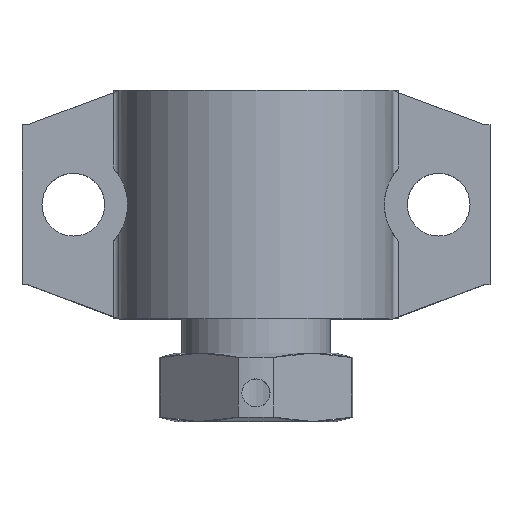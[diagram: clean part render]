
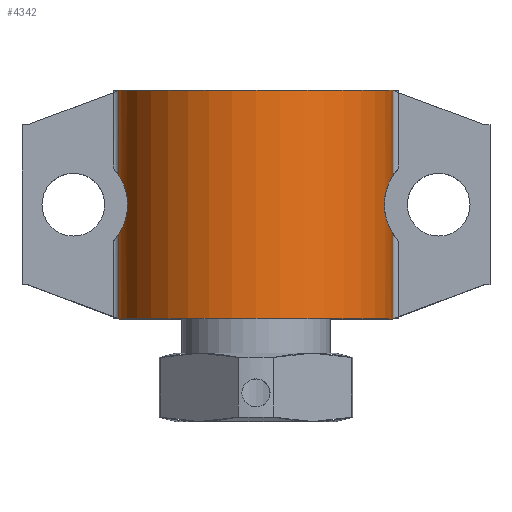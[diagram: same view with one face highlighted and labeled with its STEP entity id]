
A CAD part, top view. The second image highlights one B-rep face of the part: STEP entity #4342.
In plain terms, the highlighted cylindrical face has radius 12 mm (diameter 24 mm), a partial arc.
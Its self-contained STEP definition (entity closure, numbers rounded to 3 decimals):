
#4207=CARTESIAN_POINT('',(159.394,164.764,-18.63));
#4208=VERTEX_POINT('',#4207);
#4209=CARTESIAN_POINT('',(159.394,159.64,-18.63));
#4210=VERTEX_POINT('',#4209);
#4211=CARTESIAN_POINT('',(159.394,164.764,-18.63));
#4212=CARTESIAN_POINT('',(159.394,164.764,-18.289));
#4213=CARTESIAN_POINT('',(159.409,164.741,-17.936));
#4214=CARTESIAN_POINT('',(159.47,164.641,-17.234));
#4215=CARTESIAN_POINT('',(159.517,164.564,-16.885));
#4216=CARTESIAN_POINT('',(159.633,164.348,-16.221));
#4217=CARTESIAN_POINT('',(159.703,164.209,-15.906));
#4218=CARTESIAN_POINT('',(159.813,163.945,-15.481));
#4219=CARTESIAN_POINT('',(159.851,163.848,-15.347));
#4220=CARTESIAN_POINT('',(159.925,163.632,-15.098));
#4221=CARTESIAN_POINT('',(159.961,163.514,-14.983));
#4222=CARTESIAN_POINT('',(160.035,163.224,-14.756));
#4223=CARTESIAN_POINT('',(160.075,163.034,-14.644));
#4224=CARTESIAN_POINT('',(160.116,162.728,-14.53));
#4225=CARTESIAN_POINT('',(160.126,162.622,-14.501));
#4226=CARTESIAN_POINT('',(160.14,162.41,-14.463));
#4227=CARTESIAN_POINT('',(160.144,162.305,-14.454));
#4228=CARTESIAN_POINT('',(160.144,162.099,-14.454));
#4229=CARTESIAN_POINT('',(160.14,161.993,-14.463));
#4230=CARTESIAN_POINT('',(160.126,161.782,-14.501));
#4231=CARTESIAN_POINT('',(160.116,161.676,-14.53));
#4232=CARTESIAN_POINT('',(160.075,161.37,-14.644));
#4233=CARTESIAN_POINT('',(160.035,161.18,-14.756));
#4234=CARTESIAN_POINT('',(159.961,160.89,-14.983));
#4235=CARTESIAN_POINT('',(159.925,160.772,-15.098));
#4236=CARTESIAN_POINT('',(159.851,160.556,-15.347));
#4237=CARTESIAN_POINT('',(159.813,160.459,-15.481));
#4238=CARTESIAN_POINT('',(159.703,160.195,-15.906));
#4239=CARTESIAN_POINT('',(159.633,160.056,-16.221));
#4240=CARTESIAN_POINT('',(159.517,159.84,-16.885));
#4241=CARTESIAN_POINT('',(159.47,159.763,-17.234));
#4242=CARTESIAN_POINT('',(159.409,159.663,-17.936));
#4243=CARTESIAN_POINT('',(159.394,159.64,-18.289));
#4244=CARTESIAN_POINT('',(159.394,159.64,-18.63));
#4245=B_SPLINE_CURVE_WITH_KNOTS('',3,(#4211,#4212,#4213,#4214,#4215,#4216,#4217,#4218,#4219,#4220,#4221,#4222,#4223,#4224,#4225,#4226,#4227,#4228,#4229,#4230,#4231,#4232,#4233,#4234,#4235,#4236,#4237,#4238,#4239,#4240,#4241,#4242,#4243,#4244),.UNSPECIFIED.,.F.,.F.,(4,2,2,2,2,2,2,2,2,2,2,2,2,2,2,2,4),(0.943,1.964,2.986,4.008,4.518,5.029,5.644,5.952,6.259,6.567,6.874,7.49,8.,8.511,9.533,10.555,11.576),.UNSPECIFIED.);
#4246=EDGE_CURVE('',#4208,#4210,#4245,.T.);
#4247=ORIENTED_EDGE('',*,*,#4246,.T.);
#4248=CARTESIAN_POINT('',(159.394,152.202,-18.63));
#4249=VERTEX_POINT('',#4248);
#4250=CARTESIAN_POINT('',(159.394,152.202,-18.63));
#4251=DIRECTION('',(0.,1.,0.));
#4252=VECTOR('',#4251,1.);
#4253=LINE('',#4250,#4252);
#4254=EDGE_CURVE('',#4249,#4210,#4253,.T.);
#4255=ORIENTED_EDGE('',*,*,#4254,.F.);
#4256=CARTESIAN_POINT('',(183.394,152.202,-18.63));
#4257=VERTEX_POINT('',#4256);
#4258=CARTESIAN_POINT('',(171.394,152.202,-18.63));
#4259=DIRECTION('',(0.,-1.,0.));
#4260=DIRECTION('',(0.,0.,1.));
#4261=AXIS2_PLACEMENT_3D('',#4258,#4259,#4260);
#4262=CIRCLE('',#4261,12.);
#4263=EDGE_CURVE('',#4257,#4249,#4262,.T.);
#4264=ORIENTED_EDGE('',*,*,#4263,.F.);
#4265=CARTESIAN_POINT('',(183.394,159.64,-18.63));
#4266=VERTEX_POINT('',#4265);
#4267=CARTESIAN_POINT('',(183.394,152.202,-18.63));
#4268=DIRECTION('',(0.,1.,0.));
#4269=VECTOR('',#4268,1.);
#4270=LINE('',#4267,#4269);
#4271=EDGE_CURVE('',#4257,#4266,#4270,.T.);
#4272=ORIENTED_EDGE('',*,*,#4271,.T.);
#4273=CARTESIAN_POINT('',(183.394,164.764,-18.63));
#4274=VERTEX_POINT('',#4273);
#4275=CARTESIAN_POINT('',(183.394,159.64,-18.63));
#4276=CARTESIAN_POINT('',(183.394,159.64,-18.289));
#4277=CARTESIAN_POINT('',(183.379,159.663,-17.936));
#4278=CARTESIAN_POINT('',(183.317,159.763,-17.234));
#4279=CARTESIAN_POINT('',(183.271,159.84,-16.885));
#4280=CARTESIAN_POINT('',(183.154,160.056,-16.221));
#4281=CARTESIAN_POINT('',(183.084,160.195,-15.906));
#4282=CARTESIAN_POINT('',(182.974,160.459,-15.481));
#4283=CARTESIAN_POINT('',(182.937,160.556,-15.347));
#4284=CARTESIAN_POINT('',(182.863,160.772,-15.098));
#4285=CARTESIAN_POINT('',(182.827,160.89,-14.983));
#4286=CARTESIAN_POINT('',(182.752,161.18,-14.756));
#4287=CARTESIAN_POINT('',(182.713,161.37,-14.644));
#4288=CARTESIAN_POINT('',(182.672,161.676,-14.53));
#4289=CARTESIAN_POINT('',(182.661,161.782,-14.501));
#4290=CARTESIAN_POINT('',(182.647,161.993,-14.463));
#4291=CARTESIAN_POINT('',(182.644,162.099,-14.454));
#4292=CARTESIAN_POINT('',(182.644,162.305,-14.454));
#4293=CARTESIAN_POINT('',(182.647,162.41,-14.463));
#4294=CARTESIAN_POINT('',(182.661,162.622,-14.501));
#4295=CARTESIAN_POINT('',(182.672,162.728,-14.53));
#4296=CARTESIAN_POINT('',(182.713,163.034,-14.644));
#4297=CARTESIAN_POINT('',(182.752,163.224,-14.756));
#4298=CARTESIAN_POINT('',(182.827,163.514,-14.983));
#4299=CARTESIAN_POINT('',(182.863,163.632,-15.098));
#4300=CARTESIAN_POINT('',(182.937,163.848,-15.347));
#4301=CARTESIAN_POINT('',(182.974,163.945,-15.481));
#4302=CARTESIAN_POINT('',(183.084,164.209,-15.906));
#4303=CARTESIAN_POINT('',(183.154,164.348,-16.221));
#4304=CARTESIAN_POINT('',(183.271,164.564,-16.885));
#4305=CARTESIAN_POINT('',(183.317,164.641,-17.234));
#4306=CARTESIAN_POINT('',(183.379,164.741,-17.936));
#4307=CARTESIAN_POINT('',(183.394,164.764,-18.289));
#4308=CARTESIAN_POINT('',(183.394,164.764,-18.63));
#4309=B_SPLINE_CURVE_WITH_KNOTS('',3,(#4275,#4276,#4277,#4278,#4279,#4280,#4281,#4282,#4283,#4284,#4285,#4286,#4287,#4288,#4289,#4290,#4291,#4292,#4293,#4294,#4295,#4296,#4297,#4298,#4299,#4300,#4301,#4302,#4303,#4304,#4305,#4306,#4307,#4308),.UNSPECIFIED.,.F.,.F.,(4,2,2,2,2,2,2,2,2,2,2,2,2,2,2,2,4),(0.942,1.964,2.986,4.007,4.518,5.029,5.644,5.951,6.259,6.566,6.874,7.489,8.,8.511,9.532,10.554,11.576),.UNSPECIFIED.);
#4310=EDGE_CURVE('',#4266,#4274,#4309,.T.);
#4311=ORIENTED_EDGE('',*,*,#4310,.T.);
#4312=CARTESIAN_POINT('',(183.394,172.202,-18.63));
#4313=VERTEX_POINT('',#4312);
#4314=CARTESIAN_POINT('',(183.394,152.202,-18.63));
#4315=DIRECTION('',(0.,1.,0.));
#4316=VECTOR('',#4315,1.);
#4317=LINE('',#4314,#4316);
#4318=EDGE_CURVE('',#4274,#4313,#4317,.T.);
#4319=ORIENTED_EDGE('',*,*,#4318,.T.);
#4320=CARTESIAN_POINT('',(159.394,172.202,-18.63));
#4321=VERTEX_POINT('',#4320);
#4322=CARTESIAN_POINT('',(171.394,172.202,-18.63));
#4323=DIRECTION('',(0.,-1.,0.));
#4324=DIRECTION('',(0.,0.,1.));
#4325=AXIS2_PLACEMENT_3D('',#4322,#4323,#4324);
#4326=CIRCLE('',#4325,12.);
#4327=EDGE_CURVE('',#4313,#4321,#4326,.T.);
#4328=ORIENTED_EDGE('',*,*,#4327,.T.);
#4329=CARTESIAN_POINT('',(159.394,152.202,-18.63));
#4330=DIRECTION('',(0.,1.,0.));
#4331=VECTOR('',#4330,1.);
#4332=LINE('',#4329,#4331);
#4333=EDGE_CURVE('',#4208,#4321,#4332,.T.);
#4334=ORIENTED_EDGE('',*,*,#4333,.F.);
#4335=EDGE_LOOP('',(#4247,#4255,#4264,#4272,#4311,#4319,#4328,#4334));
#4336=FACE_OUTER_BOUND('',#4335,.T.);
#4337=CARTESIAN_POINT('',(171.394,162.202,-18.63));
#4338=DIRECTION('',(0.,-1.,0.));
#4339=DIRECTION('',(0.,0.,-1.));
#4340=AXIS2_PLACEMENT_3D('',#4337,#4338,#4339);
#4341=CYLINDRICAL_SURFACE('',#4340,12.);
#4342=ADVANCED_FACE('',(#4336),#4341,.T.);
